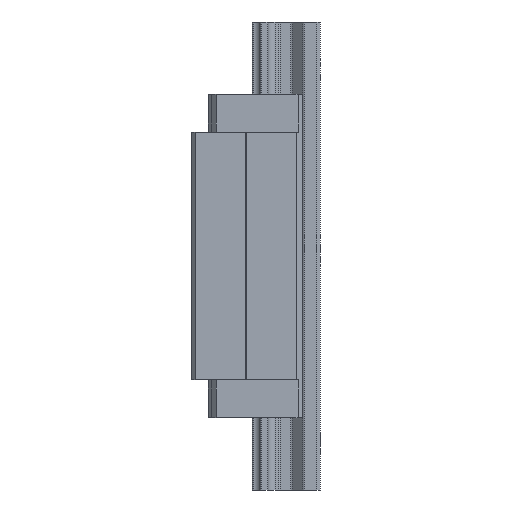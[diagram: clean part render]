
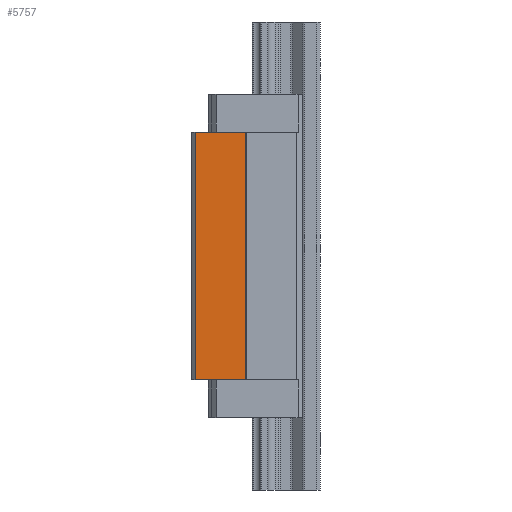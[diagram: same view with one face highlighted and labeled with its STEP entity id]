
A CAD part, left-side view. The second image highlights one B-rep face of the part: STEP entity #5757.
In plain terms, the highlighted planar face has unit normal (-1, 0, 0).
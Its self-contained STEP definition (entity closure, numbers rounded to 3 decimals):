
#311 = CARTESIAN_POINT ( 'NONE',  ( -35., 24.5, -52.9 ) ) ;
#1310 = DIRECTION ( 'NONE',  ( -1., 0., 0. ) ) ;
#1425 = DIRECTION ( 'NONE',  ( 0., 0., -1. ) ) ;
#1538 = LINE ( 'NONE', #2190, #3438 ) ;
#1907 = EDGE_CURVE ( 'NONE', #4252, #5069, #6689, .T. ) ;
#2065 = DIRECTION ( 'NONE',  ( 0., -1., 0. ) ) ;
#2190 = CARTESIAN_POINT ( 'NONE',  ( -35., 3., -52.9 ) ) ;
#2194 = CARTESIAN_POINT ( 'NONE',  ( -35., 0., -52.9 ) ) ;
#2449 = CARTESIAN_POINT ( 'NONE',  ( -35., 24.5, -52.9 ) ) ;
#2869 = ORIENTED_EDGE ( 'NONE', *, *, #1907, .T. ) ;
#3438 = VECTOR ( 'NONE', #1425, 1000. ) ;
#3456 = CARTESIAN_POINT ( 'NONE',  ( -35., 3., -52.9 ) ) ;
#3766 = DIRECTION ( 'NONE',  ( 0., 0., -1. ) ) ;
#4252 = VERTEX_POINT ( 'NONE', #2449 ) ;
#4256 = CARTESIAN_POINT ( 'NONE',  ( -35., 3., 52.9 ) ) ;
#4793 = LINE ( 'NONE', #311, #6873 ) ;
#4978 = ORIENTED_EDGE ( 'NONE', *, *, #8121, .F. ) ;
#5037 = DIRECTION ( 'NONE',  ( 0., -1., 0. ) ) ;
#5069 = VERTEX_POINT ( 'NONE', #3456 ) ;
#5757 = ADVANCED_FACE ( 'NONE', ( #11520 ), #10391, .T. ) ;
#6041 = VECTOR ( 'NONE', #5037, 1000. ) ;
#6094 = VERTEX_POINT ( 'NONE', #4256 ) ;
#6167 = VECTOR ( 'NONE', #2065, 1000. ) ;
#6689 = LINE ( 'NONE', #2194, #6167 ) ;
#6873 = VECTOR ( 'NONE', #3766, 1000. ) ;
#6937 = DIRECTION ( 'NONE',  ( 0., 0., 1. ) ) ;
#7578 = CARTESIAN_POINT ( 'NONE',  ( -35., 0., 52.9 ) ) ;
#7823 = EDGE_LOOP ( 'NONE', ( #10703, #2869, #9108, #4978 ) ) ;
#8121 = EDGE_CURVE ( 'NONE', #11650, #6094, #9448, .T. ) ;
#8145 = CARTESIAN_POINT ( 'NONE',  ( -35., 24.5, 52.9 ) ) ;
#9101 = AXIS2_PLACEMENT_3D ( 'NONE', #9690, #1310, #6937 ) ;
#9108 = ORIENTED_EDGE ( 'NONE', *, *, #10444, .F. ) ;
#9448 = LINE ( 'NONE', #7578, #6041 ) ;
#9690 = CARTESIAN_POINT ( 'NONE',  ( -35., 24.5, -52.9 ) ) ;
#10391 = PLANE ( 'NONE',  #9101 ) ;
#10444 = EDGE_CURVE ( 'NONE', #6094, #5069, #1538, .T. ) ;
#10703 = ORIENTED_EDGE ( 'NONE', *, *, #11400, .T. ) ;
#11400 = EDGE_CURVE ( 'NONE', #11650, #4252, #4793, .T. ) ;
#11520 = FACE_OUTER_BOUND ( 'NONE', #7823, .T. ) ;
#11650 = VERTEX_POINT ( 'NONE', #8145 ) ;
